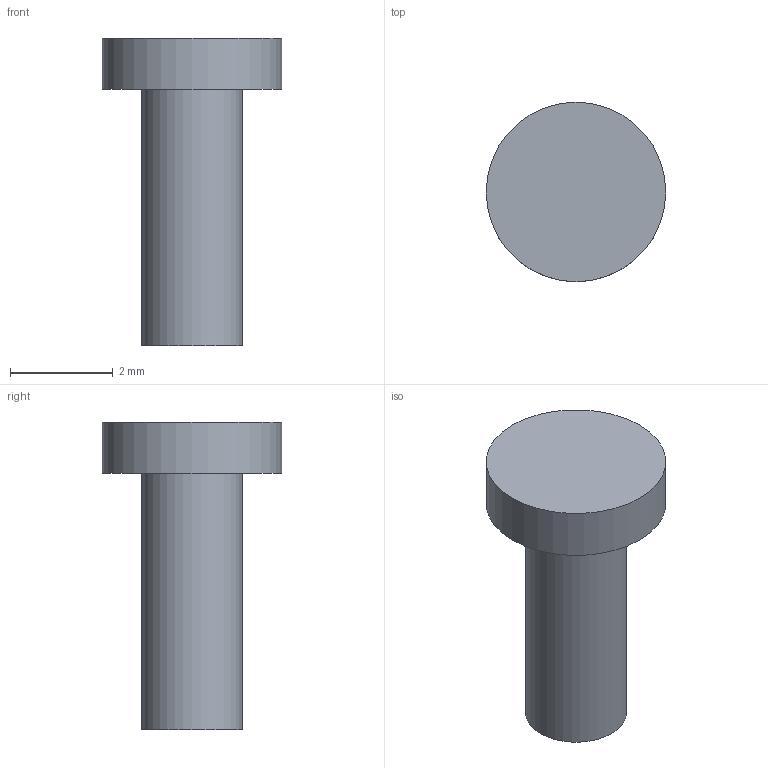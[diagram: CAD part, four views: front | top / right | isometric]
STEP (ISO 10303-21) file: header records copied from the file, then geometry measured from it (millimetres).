
FILE_DESCRIPTION(('Open CASCADE Model'),'2;1');
FILE_NAME('Open CASCADE Shape Model','2026-09-08T16:17:09',('Author'),( 'Open CASCADE'),'Open CASCADE STEP processor 7.7','Open CASCADE 7.7' ,'Unknown');
FILE_SCHEMA(('AUTOMOTIVE_DESIGN { 1 0 10303 214 1 1 1 1 }'));
Length unit declared in the file: millimetre
Products named in the file (1): Open CASCADE STEP translator 7.7 54
Bounding box: 3.5 x 3.5 x 6 mm (x, y, z)
Volume: 24.7 mm3; surface area: 61 mm2
Topology: 1 solids, 1 shells, 5 faces, 6 edges, 4 vertices
Faces by surface type: plane 3, cylinder 2
Full cylindrical faces by diameter (mm): 1.96 x1, 3.5 x1
Entity records: 192 total; most frequent: DIRECTION 34, CARTESIAN_POINT 28, ORIENTED_EDGE 12, PCURVE 12, DEFINITIONAL_REPRESENTATION 12, AXIS2_PLACEMENT_3D 10, LINE 10, VECTOR 10
